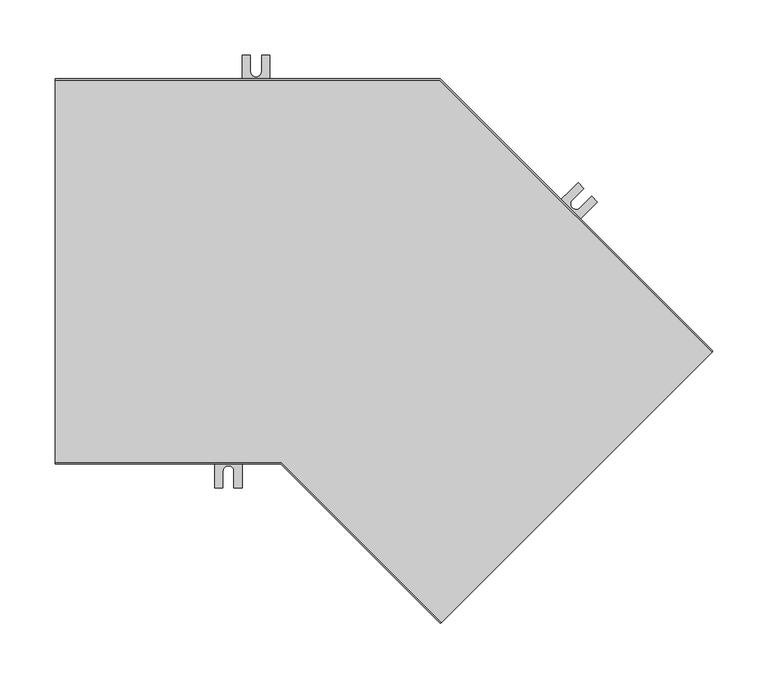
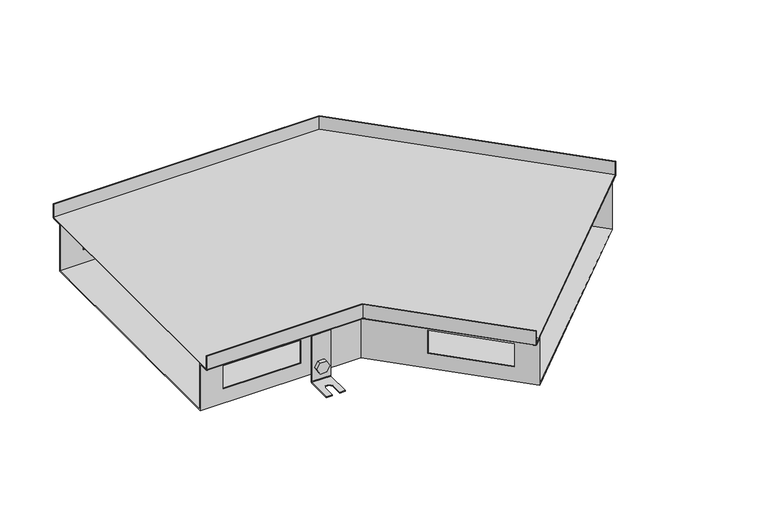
"""IFC4 building model written with IfcOpenShell, lengths in millimetres: proxy geometry, TECHNO_Угловой элемент_KVU : 350_085_135°."""

from ifc_helpers import new_model, si_unit, point, frame, frame_2d, origin, place, context, project, spatial, polyline, circle_curve, ellipse_curve, trimmed, segment, composite_curve, outline, extrude, source, transform, mapped, element, save
from ifc_brep_helpers import plane_surface, cylinder_surface, revolved_surface, advanced_brep


def mechanical_equipment_5bd0f2d3(model_context):
    return source(origin(), model_context, "Body", "SolidModel", [
        extrude(outline(composite_curve([segment(trimmed(circle_curve(frame_2d((0.0, -7.5000001)), 7.5), [point((0.0, -15.0))], [point((0.0, 0.0))], False, "CARTESIAN"), True, "CONTINUOUS"), segment(trimmed(circle_curve(frame_2d((0.0, -7.5000001)), 7.5), [point((0.0, 0.0))], [point((0.0, -15.0))], False, "CARTESIAN"), True, "CONTINUOUS")], self_intersect=False)), frame((422.4077344, -35.4349781, -75.5), z_axis=(0.7071067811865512, 0.7071067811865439, 0.0), x_axis=(0.0, 0.0, 1.0)), (0.0, 0.0, 1.0), 1.5),
        extrude(outline(polyline([(0.0, 0.0), (8.660254, 0.0), (12.990381, -7.5), (8.660254, -15.0), (0.0, -15.0), (-4.330127, -7.5), (0.0, 0.0)])), frame((406.5259365, -28.4627256, -75.5), z_axis=(0.7071067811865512, 0.7071067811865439, 0.0), x_axis=(0.3535533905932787, -0.3535533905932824, -0.8660254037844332)), (0.0, 0.0, 1.0), 5.1),
        advanced_brep(
        [(425.0947402, -39.8190401, -30.5), (425.0947402, -39.8190401, -93.5), (424.5290547, -40.3847255, -94.3), (401.194531, -63.7192493, -94.3), (401.194531, -63.7192493, -95.5), (424.5290547, -40.3847255, -95.5), (425.9432683, -38.970512, -93.5), (425.9432683, -38.970512, -30.5), (407.4170706, -22.1413706, -30.5), (408.2655988, -21.2928425, -30.5), (408.2655988, -21.2928425, -93.5), (406.8513852, -22.707056, -95.5), (383.5168614, -46.0415798, -95.5), (383.5168614, -46.0415798, -94.3), (406.8513852, -22.707056, -94.3), (407.4170706, -22.1413706, -93.5), (388.8201623, -51.3448807, -94.3), (399.426764, -40.7382789, -94.3), (406.4978318, -47.8093468, -94.3), (395.8912301, -58.4159485, -94.3), (395.8912301, -58.4159485, -95.5), (388.8201623, -51.3448807, -95.5), (406.4978318, -47.8093468, -95.5), (399.426764, -40.7382789, -95.5)],
        [
            (0, 1),
            (1, 2, circle_curve(frame((424.5290547, -40.3847255, -93.5), z_axis=(-0.7071067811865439, 0.7071067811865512, 0.0), x_axis=(-0.7071067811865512, -0.7071067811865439, 0.0)), 0.8)),
            (2, 3),
            (3, 4),
            (4, 5),
            (5, 6, circle_curve(frame((424.5290547, -40.3847255, -93.5), z_axis=(0.7071067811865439, -0.7071067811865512, 0.0), x_axis=(-0.7071067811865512, -0.7071067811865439, 0.0)), 2.0)),
            (6, 7),
            (7, 0),
            (8, 9),
            (9, 10),
            (10, 11, circle_curve(frame((406.8513852, -22.707056, -93.5), z_axis=(-0.7071067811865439, 0.7071067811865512, 0.0), x_axis=(-0.7071067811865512, -0.7071067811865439, 0.0)), 2.0)),
            (11, 12),
            (12, 13),
            (13, 14),
            (14, 15, circle_curve(frame((406.8513852, -22.707056, -93.5), z_axis=(0.7071067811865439, -0.7071067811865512, 0.0), x_axis=(-0.7071067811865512, -0.7071067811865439, 0.0)), 0.8)),
            (15, 8),
            (0, 8),
            (15, 1),
            (14, 2),
            (13, 16),
            (16, 17),
            (17, 18, circle_curve(frame((402.9622979, -44.2738128, -94.3), z_axis=(0.0, 0.0, -1.0), x_axis=(0.7071067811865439, -0.7071067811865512, 0.0)), 5.0)),
            (18, 19),
            (19, 3),
            (19, 20),
            (20, 4),
            (12, 21),
            (21, 16),
            (20, 22),
            (22, 23, circle_curve(frame((402.9622979, -44.2738128, -95.5), z_axis=(0.0, 0.0, 1.0), x_axis=(0.7071067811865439, -0.7071067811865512, 0.0)), 5.0)),
            (23, 21),
            (11, 5),
            (10, 6),
            (9, 7),
            (23, 17),
            (18, 22),
        ],
        [
            plane_surface(frame((425.0947402, -39.8190401, -30.5), z_axis=(0.7071067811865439, -0.7071067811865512, 0.0), x_axis=(0.0, 0.0, -1.0))),
            plane_surface(frame((407.4170706, -22.1413706, -30.5), z_axis=(-0.7071067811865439, 0.7071067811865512, 0.0), x_axis=(0.0, 0.0, 1.0))),
            plane_surface(frame((425.0947402, -39.8190401, -30.5), z_axis=(-0.7071067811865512, -0.7071067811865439, 0.0), x_axis=(-0.7071067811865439, 0.7071067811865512, 0.0))),
            revolved_surface(polyline([(406.2856997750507, -23.27274142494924, -93.5), (423.9633693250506, -40.950410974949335, -93.5)]), (406.8513852, -22.707056, -93.5), (-0.7071067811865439, 0.7071067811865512, 0.0)),
            plane_surface(frame((424.5290547, -40.3847255, -94.3), z_axis=(0.0, 0.0, 1.0), x_axis=(-0.7071067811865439, 0.7071067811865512, 0.0))),
            plane_surface(frame((401.194531, -63.7192493, -94.3), z_axis=(-0.7071067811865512, -0.7071067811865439, 0.0), x_axis=(-0.7071067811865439, 0.7071067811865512, 0.0))),
            plane_surface(frame((401.194531, -63.7192493, -95.5), z_axis=(0.0, 0.0, -1.0), x_axis=(-0.7071067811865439, 0.7071067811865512, 0.0))),
            cylinder_surface(frame((406.8513852, -22.707056, -93.5), z_axis=(0.7071067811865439, -0.7071067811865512, 0.0), x_axis=(-0.7071067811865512, -0.7071067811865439, 0.0)), 2.0),
            plane_surface(frame((425.9432683, -38.970512, -93.5), z_axis=(0.7071067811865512, 0.7071067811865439, 0.0), x_axis=(-0.7071067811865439, 0.7071067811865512, 0.0))),
            plane_surface(frame((425.9432683, -38.970512, -30.5), z_axis=(0.0, 0.0, 1.0), x_axis=(-0.7071067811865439, 0.7071067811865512, 0.0))),
            plane_surface(frame((399.426764, -40.7382789, -94.3), z_axis=(0.7071067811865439, -0.7071067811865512, 0.0), x_axis=(0.0, 0.0, -1.0))),
            plane_surface(frame((395.8912301, -58.4159485, -94.3), z_axis=(-0.707106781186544, 0.7071067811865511, 0.0), x_axis=(0.0, 0.0, -1.0))),
            revolved_surface(polyline([(406.4978318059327, -47.80934670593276, -94.3), (406.4978318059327, -47.80934670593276, -95.5)]), (402.9622979, -44.2738128, -95.5), (0.0, 0.0, 1.0)),
        ],
        [
            (0, [[1, 2, 3, 4, 5, 6, 7, 8]]),
            (1, [[9, 10, 11, 12, 13, 14, 15, 16]]),
            (2, [[-1, 17, -16, 18]]),
            (3, [[-2, -18, -15, 19]]),
            (4, [[-3, -19, -14, 20, 21, 22, 23, 24]]),
            (5, [[-4, -24, 25, 26]]),
            (5, [[-13, 27, 28, -20]]),
            (6, [[-5, -26, 29, 30, 31, -27, -12, 32]]),
            (7, [[-6, -32, -11, 33]]),
            (8, [[-7, -33, -10, 34]]),
            (9, [[-8, -34, -9, -17]]),
            (10, [[35, -21, -28, -31]]),
            (11, [[36, -29, -25, -23]]),
            (12, [[-35, -30, -36, -22]]),
        ],
    ),
        extrude(outline(composite_curve([segment(trimmed(circle_curve(frame_2d((0.0, -7.5)), 7.5), [point((0.0, -15.0))], [point((0.0, 0.0))], False, "CARTESIAN"), True, "CONTINUOUS"), segment(trimmed(circle_curve(frame_2d((0.0, -7.5)), 7.5), [point((0.0, 0.0))], [point((0.0, -15.0))], False, "CARTESIAN"), True, "CONTINUOUS")], self_intersect=False)), frame((452.6719046, 51.3977346, -75.5), z_axis=(0.7071067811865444, 0.7071067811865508, 0.0), x_axis=(0.0, 0.0, -1.0)), (0.0, 0.0, 1.0), 1.5),
        extrude(outline(polyline([(0.0, 0.0), (4.330127, -7.5), (0.0, -15.0000001), (-8.6602541, -15.0000001), (-12.9903811, -7.5000001), (-8.6602541, 0.0), (0.0, 0.0)])), frame((466.0081182, 41.8798977, -75.5), z_axis=(0.7071067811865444, 0.7071067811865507, 0.0), x_axis=(0.35355339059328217, -0.35355339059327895, 0.8660254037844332)), (0.0, 0.0, 1.0), 5.1),
        advanced_brep(
        [(451.045559, 56.8424569, -30.5), (451.045559, 56.8424569, -93.5), (451.6112445, 57.4081423, -94.3), (474.9457682, 80.7426661, -94.3), (474.9457682, 80.7426661, -95.5), (451.6112445, 57.4081423, -95.5), (450.1970309, 55.9939287, -93.5), (450.1970309, 55.9939287, -30.5), (468.7232286, 39.1647873, -30.5), (467.8747004, 38.3162592, -30.5), (467.8747004, 38.3162592, -93.5), (469.288914, 39.7304728, -95.5), (492.6234378, 63.0649965, -95.5), (492.6234378, 63.0649965, -94.3), (469.288914, 39.7304728, -94.3), (468.7232286, 39.1647873, -93.5), (487.3201369, 68.3682974, -94.3), (476.7135352, 57.7616957, -94.3), (469.6424674, 64.8327635, -94.3), (480.2490691, 75.4393652, -94.3), (480.2490691, 75.4393652, -95.5), (487.3201369, 68.3682974, -95.5), (469.6424674, 64.8327635, -95.5), (476.7135352, 57.7616957, -95.5)],
        [
            (0, 1),
            (1, 2, circle_curve(frame((451.6112445, 57.4081423, -93.5), z_axis=(0.7071067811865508, -0.7071067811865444, 0.0), x_axis=(0.7071067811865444, 0.7071067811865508, 0.0)), 0.8)),
            (2, 3),
            (3, 4),
            (4, 5),
            (5, 6, circle_curve(frame((451.6112445, 57.4081423, -93.5), z_axis=(-0.7071067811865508, 0.7071067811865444, 0.0), x_axis=(0.7071067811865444, 0.7071067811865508, 0.0)), 2.0)),
            (6, 7),
            (7, 0),
            (8, 9),
            (9, 10),
            (10, 11, circle_curve(frame((469.288914, 39.7304728, -93.5), z_axis=(0.7071067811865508, -0.7071067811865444, 0.0), x_axis=(0.7071067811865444, 0.7071067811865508, 0.0)), 2.0)),
            (11, 12),
            (12, 13),
            (13, 14),
            (14, 15, circle_curve(frame((469.288914, 39.7304728, -93.5), z_axis=(-0.7071067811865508, 0.7071067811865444, 0.0), x_axis=(0.7071067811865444, 0.7071067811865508, 0.0)), 0.8)),
            (15, 8),
            (0, 8),
            (15, 1),
            (14, 2),
            (13, 16),
            (16, 17),
            (17, 18, circle_curve(frame((473.1780013, 61.2972296, -94.3), z_axis=(0.0, 0.0, -1.0), x_axis=(-0.7071067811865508, 0.7071067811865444, 0.0)), 5.0)),
            (18, 19),
            (19, 3),
            (19, 20),
            (20, 4),
            (12, 21),
            (21, 16),
            (20, 22),
            (22, 23, circle_curve(frame((473.1780013, 61.2972296, -95.5), z_axis=(0.0, 0.0, 1.0), x_axis=(-0.7071067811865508, 0.7071067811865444, 0.0)), 5.0)),
            (23, 21),
            (11, 5),
            (10, 6),
            (9, 7),
            (23, 17),
            (18, 22),
        ],
        [
            plane_surface(frame((451.045559, 56.8424569, -30.5), z_axis=(-0.7071067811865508, 0.7071067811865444, 0.0), x_axis=(0.0, 0.0, -1.0))),
            plane_surface(frame((468.7232286, 39.1647873, -30.5), z_axis=(0.7071067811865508, -0.7071067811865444, 0.0), x_axis=(0.0, 0.0, 1.0))),
            plane_surface(frame((451.045559, 56.8424569, -30.5), z_axis=(0.7071067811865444, 0.7071067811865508, 0.0), x_axis=(0.7071067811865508, -0.7071067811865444, 0.0))),
            revolved_surface(polyline([(469.8545994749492, 40.29615817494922, -93.5), (452.1769298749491, 57.97382777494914, -93.5)]), (469.288914, 39.7304728, -93.5), (0.7071067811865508, -0.7071067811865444, 0.0)),
            plane_surface(frame((451.6112445, 57.4081423, -94.3), z_axis=(0.0, 0.0, 1.0000000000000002), x_axis=(0.7071067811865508, -0.7071067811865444, 0.0))),
            plane_surface(frame((474.9457682, 80.7426661, -94.3), z_axis=(0.7071067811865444, 0.7071067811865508, 0.0), x_axis=(0.7071067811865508, -0.7071067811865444, 0.0))),
            plane_surface(frame((474.9457682, 80.7426661, -95.5), z_axis=(0.0, 0.0, -1.0000000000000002), x_axis=(0.7071067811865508, -0.7071067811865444, 0.0))),
            cylinder_surface(frame((469.288914, 39.7304728, -93.5), z_axis=(-0.7071067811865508, 0.7071067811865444, 0.0), x_axis=(0.7071067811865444, 0.7071067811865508, 0.0)), 2.0),
            plane_surface(frame((450.1970309, 55.9939287, -93.5), z_axis=(-0.7071067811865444, -0.7071067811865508, 0.0), x_axis=(0.7071067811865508, -0.7071067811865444, 0.0))),
            plane_surface(frame((450.1970309, 55.9939287, -30.5), z_axis=(0.0, 0.0, 1.0000000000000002), x_axis=(0.7071067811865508, -0.7071067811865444, 0.0))),
            plane_surface(frame((476.7135352, 57.7616957, -94.3), z_axis=(-0.7071067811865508, 0.7071067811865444, 0.0), x_axis=(0.0, 0.0, -1.0))),
            plane_surface(frame((480.2490691, 75.4393652, -94.3), z_axis=(0.7071067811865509, -0.7071067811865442, 0.0), x_axis=(0.0, 0.0, -1.0))),
            revolved_surface(polyline([(469.64246739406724, 64.83276350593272, -94.3), (469.64246739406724, 64.83276350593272, -95.5)]), (473.1780013, 61.2972296, -95.5), (0.0, 0.0, 1.0)),
        ],
        [
            (0, [[1, 2, 3, 4, 5, 6, 7, 8]]),
            (1, [[9, 10, 11, 12, 13, 14, 15, 16]]),
            (2, [[-1, 17, -16, 18]]),
            (3, [[-2, -18, -15, 19]]),
            (4, [[-3, -19, -14, 20, 21, 22, 23, 24]]),
            (5, [[-4, -24, 25, 26]]),
            (5, [[-13, 27, 28, -20]]),
            (6, [[-5, -26, 29, 30, 31, -27, -12, 32]]),
            (7, [[-6, -32, -11, 33]]),
            (8, [[-7, -33, -10, 34]]),
            (9, [[-8, -34, -9, -17]]),
            (10, [[35, -21, -28, -31]]),
            (11, [[36, -29, -25, -23]]),
            (12, [[-35, -30, -36, -22]]),
        ],
    ),
        extrude(outline(composite_curve([segment(trimmed(circle_curve(frame_2d((-75.5, 182.5)), 7.5), [point((-75.5, 175.0))], [point((-75.5, 190.0))], False, "CARTESIAN"), True, "CONTINUOUS"), segment(trimmed(circle_curve(frame_2d((-75.5, 182.5)), 7.5), [point((-75.5, 190.0))], [point((-75.5, 175.0))], False, "CARTESIAN"), True, "CONTINUOUS")], self_intersect=False)), frame((0.0, 160.2, 0.0), z_axis=(0.0, 1.0, 0.0), x_axis=(0.0, 0.0, 1.0)), (0.0, 0.0, 1.0), 1.5),
        extrude(outline(polyline([(-75.5, 173.839746), (-83.0, 178.169873), (-83.0, 186.830127), (-75.5, 191.160254), (-68.0, 186.830127), (-68.0, 178.169873), (-75.5, 173.839746)])), frame((0.0, 162.9, 0.0), z_axis=(0.0, 1.0, 0.0), x_axis=(0.0, 0.0, 1.0)), (0.0, 0.0, 1.0), 5.1),
        advanced_brep(
        [(195.0, 162.9, -30.5), (195.0, 161.7, -30.5), (195.0, 161.7, -93.5), (195.0, 163.7, -95.5), (195.0, 196.7, -95.5), (195.0, 196.7, -94.3), (195.0, 163.7, -94.3), (195.0, 162.9, -93.5), (170.0, 162.9, -30.5), (170.0, 162.9, -93.5), (170.0, 163.7, -94.3), (170.0, 196.7, -94.3), (170.0, 196.7, -95.5), (170.0, 163.7, -95.5), (170.0, 161.7, -93.5), (170.0, 161.7, -30.5), (187.5, 196.7, -94.3), (187.5, 181.7, -94.3), (177.5, 181.7, -94.3), (177.5, 196.7, -94.3), (177.5, 196.7, -95.5), (187.5, 196.7, -95.5), (177.5, 181.7, -95.5), (187.5, 181.7, -95.5)],
        [
            (0, 1),
            (1, 2),
            (2, 3, circle_curve(frame((195.0, 163.7, -93.5), z_axis=(1.0, 0.0, 0.0), x_axis=(0.0, 1.0, 0.0)), 2.0)),
            (3, 4),
            (4, 5),
            (5, 6),
            (6, 7, circle_curve(frame((195.0, 163.7, -93.5), z_axis=(-1.0, 0.0, 0.0), x_axis=(0.0, 1.0, 0.0)), 0.8)),
            (7, 0),
            (8, 9),
            (9, 10, circle_curve(frame((170.0, 163.7, -93.5), z_axis=(1.0, 0.0, 0.0), x_axis=(0.0, 1.0, 0.0)), 0.8)),
            (10, 11),
            (11, 12),
            (12, 13),
            (13, 14, circle_curve(frame((170.0, 163.7, -93.5), z_axis=(-1.0, 0.0, 0.0), x_axis=(0.0, 1.0, 0.0)), 2.0)),
            (14, 15),
            (15, 8),
            (7, 9),
            (8, 0),
            (6, 10),
            (5, 16),
            (16, 17),
            (17, 18, circle_curve(frame((182.5, 181.7, -94.3), z_axis=(0.0, 0.0, -1.0), x_axis=(1.0, 0.0, 0.0)), 5.0)),
            (18, 19),
            (19, 11),
            (19, 20),
            (20, 12),
            (4, 21),
            (21, 16),
            (3, 13),
            (20, 22),
            (22, 23, circle_curve(frame((182.5, 181.7, -95.5), z_axis=(0.0, 0.0, 1.0), x_axis=(1.0, 0.0, 0.0)), 5.0)),
            (23, 21),
            (2, 14),
            (1, 15),
            (18, 22),
            (23, 17),
        ],
        [
            plane_surface(frame((195.0, 162.9, -30.5), z_axis=(1.0, 0.0, 0.0), x_axis=(0.0, 0.0, -1.0))),
            plane_surface(frame((170.0, 162.9, -30.5), z_axis=(-1.0, 0.0, 0.0), x_axis=(0.0, 0.0, 1.0))),
            plane_surface(frame((195.0, 162.9, -30.5), z_axis=(0.0, 1.0, 0.0), x_axis=(-1.0, 0.0, 0.0))),
            revolved_surface(polyline([(170.0, 164.5, -93.5), (195.0, 164.5, -93.5)]), (170.0, 163.7, -93.5), (-1.0, 0.0, 0.0)),
            plane_surface(frame((195.0, 163.7, -94.3), z_axis=(0.0, 0.0, 1.0), x_axis=(-1.0, 0.0, 0.0))),
            plane_surface(frame((195.0, 196.7, -94.3), z_axis=(0.0, 1.0, 0.0), x_axis=(-1.0, 0.0, 0.0))),
            plane_surface(frame((195.0, 196.7, -95.5), z_axis=(0.0, 0.0, -1.0), x_axis=(-1.0, 0.0, 0.0))),
            cylinder_surface(frame((170.0, 163.7, -93.5), z_axis=(1.0, 0.0, 0.0), x_axis=(0.0, 1.0, 0.0)), 2.0),
            plane_surface(frame((195.0, 161.7, -93.5), z_axis=(0.0, -1.0, 0.0), x_axis=(-1.0, 0.0, 0.0))),
            plane_surface(frame((195.0, 161.7, -30.5), z_axis=(0.0, 0.0, 1.0), x_axis=(-1.0, 0.0, 0.0))),
            plane_surface(frame((177.5, 181.7, -94.3), z_axis=(1.0, 0.0, 0.0), x_axis=(0.0, 0.0, -1.0))),
            plane_surface(frame((187.5, 196.7, -94.3), z_axis=(-1.0, 0.0, 0.0), x_axis=(0.0, 0.0, -1.0))),
            revolved_surface(polyline([(187.5, 181.7, -94.3), (187.5, 181.7, -95.5)]), (182.5, 181.7, -95.5), (0.0, 0.0, 1.0)),
        ],
        [
            (0, [[1, 2, 3, 4, 5, 6, 7, 8]]),
            (1, [[9, 10, 11, 12, 13, 14, 15, 16]]),
            (2, [[17, -9, 18, -8]]),
            (3, [[19, -10, -17, -7]]),
            (4, [[20, 21, 22, 23, 24, -11, -19, -6]]),
            (5, [[-24, 25, 26, -12]]),
            (5, [[27, 28, -20, -5]]),
            (6, [[29, -13, -26, 30, 31, 32, -27, -4]]),
            (7, [[33, -14, -29, -3]]),
            (8, [[34, -15, -33, -2]]),
            (9, [[-18, -16, -34, -1]]),
            (10, [[-30, -25, -23, 35]]),
            (11, [[-21, -28, -32, 36]]),
            (12, [[-22, -36, -31, -35]]),
        ],
    ),
        extrude(outline(composite_curve([segment(trimmed(circle_curve(frame_2d((-75.5, 157.5)), 7.5), [point((-75.5, 150.0))], [point((-75.5, 165.0))], False, "CARTESIAN"), True, "CONTINUOUS"), segment(trimmed(circle_curve(frame_2d((-75.5, 157.5)), 7.5), [point((-75.5, 165.0))], [point((-75.5, 150.0))], False, "CARTESIAN"), True, "CONTINUOUS")], self_intersect=False)), frame((0.0, -161.7, 0.0), z_axis=(0.0, 1.0, 0.0), x_axis=(0.0, 0.0, 1.0)), (0.0, 0.0, 1.0), 1.5),
        extrude(outline(polyline([(-75.5, 148.839746), (-83.0, 153.169873), (-83.0, 161.830127), (-75.5, 166.160254), (-68.0, 161.830127), (-68.0, 153.169873), (-75.5, 148.839746)])), frame((0.0, -168.0, 0.0), z_axis=(0.0, 1.0, 0.0), x_axis=(0.0, 0.0, 1.0)), (0.0, 0.0, 1.0), 5.1),
        advanced_brep(
        [(170.0, -162.9, -30.5), (170.0, -162.9, -93.5), (170.0, -163.7, -94.3), (170.0, -196.7, -94.3), (170.0, -196.7, -95.5), (170.0, -163.7, -95.5), (170.0, -161.7, -93.5), (170.0, -161.7, -30.5), (145.0, -162.9, -30.5), (145.0, -161.7, -30.5), (145.0, -161.7, -93.5), (145.0, -163.7, -95.5), (145.0, -196.7, -95.5), (145.0, -196.7, -94.3), (145.0, -163.7, -94.3), (145.0, -162.9, -93.5), (152.5, -196.7, -94.3), (152.5, -181.7, -94.3), (162.5, -181.7, -94.3), (162.5, -196.7, -94.3), (162.5, -196.7, -95.5), (152.5, -196.7, -95.5), (162.5, -181.7, -95.5), (152.5, -181.7, -95.5)],
        [
            (0, 1),
            (1, 2, circle_curve(frame((170.0, -163.7, -93.5), z_axis=(-1.0, 0.0, 0.0), x_axis=(0.0, -1.0, 0.0)), 0.8)),
            (2, 3),
            (3, 4),
            (4, 5),
            (5, 6, circle_curve(frame((170.0, -163.7, -93.5), z_axis=(1.0, 0.0, 0.0), x_axis=(0.0, -1.0, 0.0)), 2.0)),
            (6, 7),
            (7, 0),
            (8, 9),
            (9, 10),
            (10, 11, circle_curve(frame((145.0, -163.7, -93.5), z_axis=(-1.0, 0.0, 0.0), x_axis=(0.0, -1.0, 0.0)), 2.0)),
            (11, 12),
            (12, 13),
            (13, 14),
            (14, 15, circle_curve(frame((145.0, -163.7, -93.5), z_axis=(1.0, 0.0, 0.0), x_axis=(0.0, -1.0, 0.0)), 0.8)),
            (15, 8),
            (0, 8),
            (15, 1),
            (14, 2),
            (13, 16),
            (16, 17),
            (17, 18, circle_curve(frame((157.5, -181.7, -94.3), z_axis=(0.0, 0.0, -1.0), x_axis=(1.0, 0.0, 0.0)), 5.0)),
            (18, 19),
            (19, 3),
            (19, 20),
            (20, 4),
            (12, 21),
            (21, 16),
            (20, 22),
            (22, 23, circle_curve(frame((157.5, -181.7, -95.5), z_axis=(0.0, 0.0, 1.0), x_axis=(1.0, 0.0, 0.0)), 5.0)),
            (23, 21),
            (11, 5),
            (10, 6),
            (9, 7),
            (23, 17),
            (18, 22),
        ],
        [
            plane_surface(frame((170.0, -162.9, -30.5), z_axis=(1.0, 0.0, 0.0), x_axis=(0.0, 0.0, -1.0))),
            plane_surface(frame((145.0, -162.9, -30.5), z_axis=(-1.0, 0.0, 0.0), x_axis=(0.0, 0.0, 1.0))),
            plane_surface(frame((170.0, -162.9, -30.5), z_axis=(0.0, -1.0, 0.0), x_axis=(-1.0, 0.0, 0.0))),
            revolved_surface(polyline([(145.0, -164.5, -93.5), (170.0, -164.5, -93.5)]), (145.0, -163.7, -93.5), (-1.0, 0.0, 0.0)),
            plane_surface(frame((170.0, -163.7, -94.3), z_axis=(0.0, 0.0, 1.0), x_axis=(-1.0, 0.0, 0.0))),
            plane_surface(frame((170.0, -196.7, -94.3), z_axis=(0.0, -1.0, 0.0), x_axis=(-1.0, 0.0, 0.0))),
            plane_surface(frame((170.0, -196.7, -95.5), z_axis=(0.0, 0.0, -1.0), x_axis=(-1.0, 0.0, 0.0))),
            cylinder_surface(frame((145.0, -163.7, -93.5), z_axis=(1.0, 0.0, 0.0), x_axis=(0.0, -1.0, 0.0)), 2.0),
            plane_surface(frame((170.0, -161.7, -93.5), z_axis=(0.0, 1.0, 0.0), x_axis=(-1.0, 0.0, 0.0))),
            plane_surface(frame((170.0, -161.7, -30.5), z_axis=(0.0, 0.0, 1.0), x_axis=(-1.0, 0.0, 0.0))),
            plane_surface(frame((152.5, -181.7, -94.3), z_axis=(1.0, 0.0, 0.0), x_axis=(0.0, 0.0, -1.0))),
            plane_surface(frame((162.5, -196.7, -94.3), z_axis=(-1.0, 0.0, 0.0), x_axis=(0.0, 0.0, -1.0))),
            revolved_surface(polyline([(162.5, -181.7, -94.3), (162.5, -181.7, -95.5)]), (157.5, -181.7, -95.5), (0.0, 0.0, 1.0)),
        ],
        [
            (0, [[1, 2, 3, 4, 5, 6, 7, 8]]),
            (1, [[9, 10, 11, 12, 13, 14, 15, 16]]),
            (2, [[-1, 17, -16, 18]]),
            (3, [[-2, -18, -15, 19]]),
            (4, [[-3, -19, -14, 20, 21, 22, 23, 24]]),
            (5, [[-4, -24, 25, 26]]),
            (5, [[-13, 27, 28, -20]]),
            (6, [[-5, -26, 29, 30, 31, -27, -12, 32]]),
            (7, [[-6, -32, -11, 33]]),
            (8, [[-7, -33, -10, 34]]),
            (9, [[-8, -34, -9, -17]]),
            (10, [[35, -21, -28, -31]]),
            (11, [[36, -29, -25, -23]]),
            (12, [[-35, -30, -36, -22]]),
        ],
    ),
        extrude(outline(polyline([(596.6388453, -73.3359016), (350.8485281, -319.1262187), (205.5223094, -173.8), (0.0, -173.8), (0.0, 173.8), (349.5029437, 173.8), (596.6388453, -73.3359016)])), frame((0.0, 0.0, -19.3), z_axis=(0.0, 0.0, 1.0), x_axis=(1.0, 0.0, 0.0)), (0.0, 0.0, 1.0), 1.2),
        advanced_brep(
        [(350.0, -319.9747468, -19.3), (350.8485281, -319.1262187, -20.5), (360.4651804, -309.5095665, -20.5), (360.4651804, -309.5095665, -85.0), (587.0221931, -82.9525538, -85.0), (587.0221931, -82.9525538, -20.5), (596.6388453, -73.3359016, -20.5), (597.4873734, -72.4873734, -19.3), (597.4873734, -72.4873734, 0.0), (596.6388453, -73.3359016, 0.0), (596.6388453, -73.3359016, -19.3), (587.0221931, -82.9525538, -19.3), (586.1736649, -83.8010819, -20.5), (586.1736649, -83.8010819, -83.8), (361.3137085, -308.6610383, -83.8), (361.3137085, -308.6610383, -20.5), (360.4651804, -309.5095665, -19.3), (350.8485281, -319.1262187, -19.3), (350.8485281, -319.1262187, 0.0), (350.0, -319.9747468, 0.0), (0.0, -175.0, -19.3), (0.0, -175.0, 0.0), (0.0, -173.8, 0.0), (0.0, -173.8, -19.3), (0.0, -160.2, -19.3), (0.0, -159.0, -20.5), (0.0, -159.0, -83.8), (0.0, 159.0, -83.8), (0.0, 159.0, -20.5), (0.0, 160.2, -19.3), (0.0, 173.8, -19.3), (0.0, 173.8, 0.0), (0.0, 175.0, 0.0), (0.0, 175.0, -19.3), (0.0, 173.8, -20.5), (0.0, 160.2, -20.5), (0.0, 160.2, -85.0), (0.0, -160.2, -85.0), (0.0, -160.2, -20.5), (0.0, -173.8, -20.5), (205.5223094, -173.8, -20.5), (205.0252532, -175.0, -19.3), (205.5223094, -173.8, 0.0), (205.5223094, -173.8, -19.3), (211.1556139, -160.2, -85.0), (211.1556139, -160.2, -20.5), (30.0, -160.2, -33.0), (132.0, -160.2, -33.0), (132.0, -160.2, -65.0), (30.0, -160.2, -65.0), (211.6526702, -159.0, -20.5), (211.6526702, -159.0, -83.8), (132.0, -159.0, -33.0), (30.0, -159.0, -33.0), (30.0, -159.0, -65.0), (132.0, -159.0, -65.0), (211.1556139, -160.2, -19.3), (267.1270852, -216.1714714, -33.0), (339.2519769, -288.296363, -33.0), (339.2519769, -288.296363, -65.0), (267.1270852, -216.1714714, -65.0), (343.8696393, 160.2, -85.0), (343.372583, 159.0, -83.8), (340.1005051, -287.4478349, -33.0), (267.9756134, -215.3229432, -33.0), (267.9756134, -215.3229432, -65.0), (340.1005051, -287.4478349, -65.0), (205.0252532, -175.0, 0.0), (343.8696393, 160.2, -20.5), (565.8089896, -61.7393503, -33.0), (493.6840979, 10.3855413, -33.0), (493.6840979, 10.3855413, -65.0), (565.8089896, -61.7393503, -65.0), (349.5029437, 173.8, -20.5), (350.0, 175.0, -19.3), (350.0, 175.0, 0.0), (349.5029437, 173.8, 0.0), (349.5029437, 173.8, -19.3), (343.8696393, 160.2, -19.3), (343.372583, 159.0, -20.5), (492.8355698, 9.5370132, -33.0), (564.9604615, -62.5878785, -33.0), (564.9604615, -62.5878785, -65.0), (492.8355698, 9.5370132, -65.0), (132.0, 160.2, -33.0), (30.0, 160.2, -33.0), (30.0, 160.2, -65.0), (132.0, 160.2, -65.0), (30.0, 159.0, -33.0), (132.0, 159.0, -33.0), (132.0, 159.0, -65.0), (30.0, 159.0, -65.0)],
        [
            (0, 1, circle_curve(frame((350.8485281, -319.1262187, -19.3), z_axis=(0.707106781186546, -0.707106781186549, 0.0), x_axis=(-0.707106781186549, -0.707106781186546, 0.0)), 1.2)),
            (1, 2),
            (2, 3),
            (3, 4),
            (4, 5),
            (5, 6),
            (6, 7, circle_curve(frame((596.6388453, -73.3359016, -19.3), z_axis=(0.707106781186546, -0.707106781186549, 0.0), x_axis=(-0.707106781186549, -0.707106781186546, 0.0)), 1.2)),
            (7, 8),
            (8, 9),
            (9, 10),
            (10, 11),
            (11, 12, circle_curve(frame((587.0221931, -82.9525538, -20.5), z_axis=(0.707106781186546, -0.707106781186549, 0.0), x_axis=(-0.707106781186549, -0.707106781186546, 0.0)), 1.2)),
            (12, 13),
            (13, 14),
            (14, 15),
            (15, 16, circle_curve(frame((360.4651804, -309.5095665, -20.5), z_axis=(0.707106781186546, -0.707106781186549, 0.0), x_axis=(-0.707106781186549, -0.707106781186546, 0.0)), 1.2)),
            (16, 17),
            (17, 18),
            (18, 19),
            (19, 0),
            (20, 21),
            (21, 22),
            (22, 23),
            (23, 24),
            (24, 25, circle_curve(frame((0.0, -160.2, -20.5), z_axis=(-1.0, 0.0, 0.0), x_axis=(0.0, -1.0, 0.0)), 1.2)),
            (25, 26),
            (26, 27),
            (27, 28),
            (28, 29, circle_curve(frame((0.0, 160.2, -20.5), z_axis=(-1.0, 0.0, 0.0), x_axis=(0.0, -1.0, 0.0)), 1.2)),
            (29, 30),
            (30, 31),
            (31, 32),
            (32, 33),
            (33, 34, circle_curve(frame((0.0, 173.8, -19.3), z_axis=(-1.0, 0.0, 0.0), x_axis=(0.0, -1.0, 0.0)), 1.2)),
            (34, 35),
            (35, 36),
            (36, 37),
            (37, 38),
            (38, 39),
            (39, 20, circle_curve(frame((0.0, -173.8, -19.3), z_axis=(-1.0, 0.0, 0.0), x_axis=(0.0, -1.0, 0.0)), 1.2)),
            (39, 40),
            (40, 41, ellipse_curve(frame((205.5223094, -173.8, -19.3), z_axis=(-0.9238795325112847, 0.3826834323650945, 0.0), x_axis=(0.3826834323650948, 0.9238795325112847, 0.0)), 1.2988706, 1.2)),
            (41, 20),
            (22, 42),
            (42, 43),
            (43, 23),
            (37, 44),
            (44, 45),
            (45, 38),
            (46, 47),
            (47, 48),
            (48, 49),
            (49, 46),
            (25, 50),
            (50, 51),
            (51, 26),
            (52, 53),
            (53, 54),
            (54, 55),
            (55, 52),
            (24, 56),
            (56, 50, ellipse_curve(frame((211.1556139, -160.2, -20.5), z_axis=(-0.9238795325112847, 0.3826834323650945, 0.0), x_axis=(0.3826834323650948, 0.9238795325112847, 0.0)), 1.2988706, 1.2)),
            (0, 41),
            (40, 1),
            (45, 2),
            (44, 3),
            (57, 58),
            (58, 59),
            (59, 60),
            (60, 57),
            (36, 61),
            (61, 4),
            (13, 62),
            (62, 27),
            (51, 14),
            (50, 15),
            (63, 64),
            (64, 65),
            (65, 66),
            (66, 63),
            (56, 16),
            (43, 17),
            (42, 18),
            (21, 67),
            (67, 19),
            (61, 68),
            (68, 5),
            (69, 70),
            (70, 71),
            (71, 72),
            (72, 69),
            (68, 35),
            (34, 73),
            (73, 6),
            (73, 74, ellipse_curve(frame((349.5029437, 173.8, -19.3), z_axis=(0.9238795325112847, -0.3826834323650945, 0.0), x_axis=(-0.38268343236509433, -0.9238795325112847, 0.0)), 1.2988706, 1.2)),
            (74, 7),
            (74, 75),
            (75, 8),
            (75, 32),
            (31, 76),
            (76, 9),
            (76, 77),
            (77, 10),
            (77, 30),
            (29, 78),
            (78, 11),
            (78, 79, ellipse_curve(frame((343.8696393, 160.2, -20.5), z_axis=(0.9238795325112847, -0.3826834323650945, 0.0), x_axis=(-0.38268343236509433, -0.9238795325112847, 0.0)), 1.2988706, 1.2)),
            (79, 12),
            (79, 62),
            (80, 81),
            (81, 82),
            (82, 83),
            (83, 80),
            (84, 85),
            (85, 86),
            (86, 87),
            (87, 84),
            (33, 74),
            (28, 79),
            (88, 89),
            (89, 90),
            (90, 91),
            (91, 88),
            (41, 67),
            (46, 53),
            (52, 47),
            (88, 85),
            (84, 89),
            (49, 54),
            (91, 86),
            (48, 55),
            (90, 87),
            (57, 64),
            (63, 58),
            (80, 70),
            (69, 81),
            (66, 59),
            (72, 82),
            (65, 60),
            (71, 83),
        ],
        [
            plane_surface(frame((473.7436867, -196.2310601, 0.0), z_axis=(0.707106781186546, -0.707106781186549, 0.0), x_axis=(0.0, 0.0, 1.0))),
            plane_surface(frame((0.0, 0.0, 0.0), z_axis=(-1.0, 0.0, 0.0), x_axis=(0.0, 0.0, 1.0))),
            cylinder_surface(frame((277.5126266, -173.8, -19.3), z_axis=(1.0, 0.0, 0.0), x_axis=(0.0, -1.0, 0.0)), 1.2),
            plane_surface(frame((205.5223094, -173.8, -19.3), z_axis=(0.0, 1.0, 0.0), x_axis=(-1.0, 0.0, 0.0))),
            plane_surface(frame((211.1556139, -160.2, -20.5), z_axis=(0.0, -1.0, 0.0), x_axis=(-1.0, 0.0, 0.0))),
            plane_surface(frame((211.6526702, -159.0, -83.8), z_axis=(0.0, 1.0, 0.0), x_axis=(-1.0, 0.0, 0.0))),
            cylinder_surface(frame((277.5126266, -160.2, -20.5), z_axis=(1.0, 0.0, 0.0), x_axis=(0.0, -1.0, 0.0)), 1.2),
            cylinder_surface(frame((350.8485281, -319.1262187, -19.3), z_axis=(0.707106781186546, -0.707106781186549, 0.0), x_axis=(-0.707106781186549, -0.707106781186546, 0.0)), 1.2),
            plane_surface(frame((350.8485281, -319.1262187, -20.5), z_axis=(0.0, 0.0, -1.0), x_axis=(-0.7071067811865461, 0.7071067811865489, 0.0))),
            plane_surface(frame((360.4651804, -309.5095665, -20.5), z_axis=(-0.7071067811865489, -0.7071067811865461, 0.0), x_axis=(-0.7071067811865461, 0.7071067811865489, 0.0))),
            plane_surface(frame((360.4651804, -309.5095665, -85.0), z_axis=(0.0, 0.0, -1.0), x_axis=(-0.7071067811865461, 0.707106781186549, 0.0))),
            plane_surface(frame((586.1736649, -83.8010819, -83.8), z_axis=(0.0, 0.0, 1.0), x_axis=(-0.7071067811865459, 0.7071067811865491, 0.0))),
            plane_surface(frame((361.3137085, -308.6610383, -83.8), z_axis=(0.7071067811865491, 0.707106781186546, 0.0), x_axis=(-0.707106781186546, 0.7071067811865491, 0.0))),
            cylinder_surface(frame((360.4651804, -309.5095665, -20.5), z_axis=(0.707106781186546, -0.707106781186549, 0.0), x_axis=(-0.707106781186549, -0.707106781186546, 0.0)), 1.2),
            plane_surface(frame((360.4651804, -309.5095665, -19.3), z_axis=(0.0, 0.0, 1.0), x_axis=(-0.707106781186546, 0.707106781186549, 0.0))),
            plane_surface(frame((350.8485281, -319.1262187, -19.3), z_axis=(0.7071067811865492, 0.7071067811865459, 0.0), x_axis=(-0.7071067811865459, 0.7071067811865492, 0.0))),
            plane_surface(frame((350.8485281, -319.1262187, 0.0), z_axis=(0.0, 0.0, 1.0000000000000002), x_axis=(-0.7071067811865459, 0.7071067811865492, 0.0))),
            plane_surface(frame((587.0221931, -82.9525538, -85.0), z_axis=(0.7071067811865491, 0.7071067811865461, 0.0), x_axis=(-0.7071067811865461, 0.7071067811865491, 0.0))),
            plane_surface(frame((587.0221931, -82.9525538, -20.5), z_axis=(0.0, 0.0, -1.0000000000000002), x_axis=(-0.7071067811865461, 0.7071067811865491, 0.0))),
            cylinder_surface(frame((596.6388453, -73.3359016, -19.3), z_axis=(0.707106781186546, -0.707106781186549, 0.0), x_axis=(-0.707106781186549, -0.707106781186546, 0.0)), 1.2),
            plane_surface(frame((597.4873734, -72.4873734, -19.3), z_axis=(0.707106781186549, 0.707106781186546, 0.0), x_axis=(-0.707106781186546, 0.707106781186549, 0.0))),
            plane_surface(frame((597.4873734, -72.4873734, 0.0), z_axis=(0.0, 0.0, 1.0), x_axis=(-0.707106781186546, 0.707106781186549, 0.0))),
            plane_surface(frame((596.6388453, -73.3359016, 0.0), z_axis=(-0.707106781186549, -0.707106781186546, 0.0), x_axis=(-0.707106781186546, 0.707106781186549, 0.0))),
            plane_surface(frame((596.6388453, -73.3359016, -19.3), z_axis=(0.0, 0.0, 1.0000000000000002), x_axis=(-0.7071067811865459, 0.7071067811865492, 0.0))),
            cylinder_surface(frame((587.0221931, -82.9525538, -20.5), z_axis=(0.707106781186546, -0.707106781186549, 0.0), x_axis=(-0.707106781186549, -0.707106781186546, 0.0)), 1.2),
            plane_surface(frame((586.1736649, -83.8010819, -20.5), z_axis=(-0.7071067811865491, -0.7071067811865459, 0.0), x_axis=(-0.7071067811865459, 0.7071067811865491, 0.0))),
            plane_surface(frame((343.8696393, 160.2, -85.0), z_axis=(0.0, 1.0, 0.0), x_axis=(-1.0, 0.0, 0.0))),
            cylinder_surface(frame((277.5126266, 173.8, -19.3), z_axis=(1.0, 0.0, 0.0), x_axis=(0.0, -1.0, 0.0)), 1.2),
            plane_surface(frame((350.0, 175.0, -19.3), z_axis=(0.0, 1.0, 0.0), x_axis=(-1.0, 0.0, 0.0))),
            plane_surface(frame((349.5029437, 173.8, 0.0), z_axis=(0.0, -1.0, 0.0), x_axis=(-1.0, 0.0, 0.0))),
            cylinder_surface(frame((277.5126266, 160.2, -20.5), z_axis=(1.0, 0.0, 0.0), x_axis=(0.0, -1.0, 0.0)), 1.2),
            plane_surface(frame((343.372583, 159.0, -20.5), z_axis=(0.0, -1.0, 0.0), x_axis=(-1.0, 0.0, 0.0))),
            plane_surface(frame((205.0252532, -175.0, 0.0), z_axis=(0.0, -1.0, 0.0), x_axis=(-1.0, 0.0, 0.0))),
            plane_surface(frame((350.0, -319.9747468, 0.0), z_axis=(-0.707106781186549, -0.707106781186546, 0.0), x_axis=(-0.707106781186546, 0.707106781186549, 0.0))),
            plane_surface(frame((30.0, 175.0, -33.0), z_axis=(0.0, 0.0, -1.0), x_axis=(0.0, -1.0, 0.0))),
            plane_surface(frame((30.0, 175.0, -65.0), z_axis=(1.0, 0.0, 0.0), x_axis=(0.0, -1.0, 0.0))),
            plane_surface(frame((132.0, 175.0, -65.0), z_axis=(0.0, 0.0, 1.0), x_axis=(0.0, -1.0, 0.0))),
            plane_surface(frame((132.0, 175.0, -33.0), z_axis=(-1.0, 0.0, 0.0), x_axis=(0.0, -1.0, 0.0))),
            plane_surface(frame((504.1492783, 20.8507217, -33.0), z_axis=(0.0, 0.0, -1.0), x_axis=(-0.707106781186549, -0.7071067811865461, 0.0))),
            plane_surface(frame((576.27417, -51.27417, -33.0), z_axis=(-0.7071067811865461, 0.7071067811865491, 0.0), x_axis=(-0.7071067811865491, -0.7071067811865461, 0.0))),
            plane_surface(frame((576.27417, -51.27417, -65.0), z_axis=(0.0, 0.0, 1.0000000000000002), x_axis=(-0.7071067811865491, -0.7071067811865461, 0.0))),
            plane_surface(frame((504.1492783, 20.8507217, -65.0), z_axis=(0.7071067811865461, -0.707106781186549, 0.0), x_axis=(-0.707106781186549, -0.7071067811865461, 0.0))),
        ],
        [
            (0, [[1, 2, 3, 4, 5, 6, 7, 8, 9, 10, 11, 12, 13, 14, 15, 16, 17, 18, 19, 20]]),
            (1, [[21, 22, 23, 24, 25, 26, 27, 28, 29, 30, 31, 32, 33, 34, 35, 36, 37, 38, 39, 40]]),
            (2, [[-40, 41, 42, 43]]),
            (3, [[-23, 44, 45, 46]]),
            (4, [[-38, 47, 48, 49], [50, 51, 52, 53]]),
            (5, [[-26, 54, 55, 56], [57, 58, 59, 60]]),
            (6, [[-25, 61, 62, -54]]),
            (7, [[-1, 63, -42, 64]]),
            (8, [[-2, -64, -41, -39, -49, 65]]),
            (9, [[-3, -65, -48, 66], [67, 68, 69, 70]]),
            (10, [[-4, -66, -47, -37, 71, 72]]),
            (11, [[-14, 73, 74, -27, -56, 75]]),
            (12, [[-15, -75, -55, 76], [77, 78, 79, 80]]),
            (13, [[-16, -76, -62, 81]]),
            (14, [[-17, -81, -61, -24, -46, 82]]),
            (15, [[-18, -82, -45, 83]]),
            (16, [[-19, -83, -44, -22, 84, 85]]),
            (17, [[-5, -72, 86, 87], [88, 89, 90, 91]]),
            (18, [[-6, -87, 92, -35, 93, 94]]),
            (19, [[-7, -94, 95, 96]]),
            (20, [[-8, -96, 97, 98]]),
            (21, [[-9, -98, 99, -32, 100, 101]]),
            (22, [[-10, -101, 102, 103]]),
            (23, [[-11, -103, 104, -30, 105, 106]]),
            (24, [[-12, -106, 107, 108]]),
            (25, [[-13, -108, 109, -73], [110, 111, 112, 113]]),
            (26, [[-36, -92, -86, -71], [114, 115, 116, 117]]),
            (27, [[-34, 118, -95, -93]]),
            (28, [[-33, -99, -97, -118]]),
            (29, [[-31, -104, -102, -100]]),
            (30, [[-29, 119, -107, -105]]),
            (31, [[-28, -74, -109, -119], [120, 121, 122, 123]]),
            (32, [[-21, -43, 124, -84]]),
            (33, [[-20, -85, -124, -63]]),
            (34, [[125, -57, 126, -50]]),
            (34, [[127, -114, 128, -120]]),
            (35, [[-125, -53, 129, -58]]),
            (35, [[-127, -123, 130, -115]]),
            (36, [[-129, -52, 131, -59]]),
            (36, [[-130, -122, 132, -116]]),
            (37, [[-131, -51, -126, -60]]),
            (37, [[-132, -121, -128, -117]]),
            (38, [[133, -77, 134, -67]]),
            (38, [[135, -88, 136, -110]]),
            (39, [[-134, -80, 137, -68]]),
            (39, [[-136, -91, 138, -111]]),
            (40, [[-137, -79, 139, -69]]),
            (40, [[-138, -90, 140, -112]]),
            (41, [[-133, -70, -139, -78]]),
            (41, [[-135, -113, -140, -89]]),
        ],
    ),
    ])


if __name__ == "__main__":
    model = new_model("IFC4")
    model_context = context("Model", 3, world=origin())
    ifc_project = project(units=[si_unit("LENGTHUNIT", "METRE", prefix="MILLI")], contexts=[model_context])
    site = spatial("IfcSite", under=ifc_project)
    building = spatial("IfcBuilding", under=site)
    placement = place(None, origin())
    mechanical_equipment_shape = mechanical_equipment_5bd0f2d3(model_context)
    element("IfcBuildingElementProxy", 1, Name="TECHNO_Угловой элемент_KVU : 350_085_135°", ObjectType="TECHNO_Угловой элемент_KVU : 350_085_135°", at=placement, inside=building, context=model_context, shape_type="MappedRepresentation", body=[
        mapped(mechanical_equipment_shape, transform((0.0, 0.0, 0.0), x_axis=(1.0, 0.0, 0.0), y_axis=(0.0, 1.0, 0.0), z_axis=(0.0, 0.0, 1.0))),
    ])
    save(model, "model.ifc")
